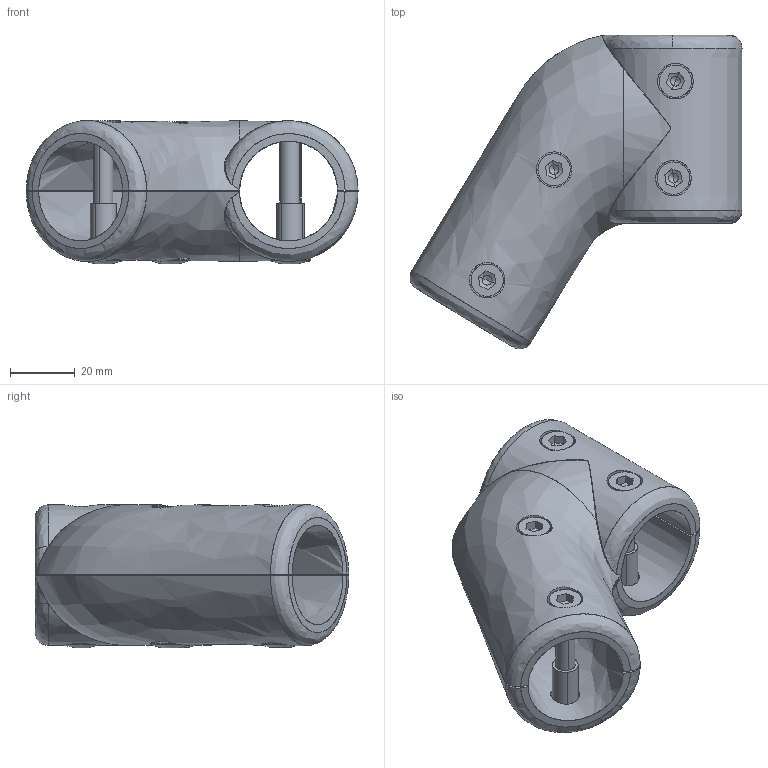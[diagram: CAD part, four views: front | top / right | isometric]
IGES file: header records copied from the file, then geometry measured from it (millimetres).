
Start section: SolidWorks IGES file using analytic representation for surfaces
Global section: file name: C:\Users\Gerard\OneDrive - Tecnodin, S.L\Escritorio\30 mm Verbinder im step. Format\31000410010.IGS; native system: SolidWorks 2016; preprocessor: SolidWorks 2016; author: Gerard; date: 240902.114429; units: millimetre
Bounding box: 102.74 x 97.03 x 44.42 mm (x, y, z)
Surface area: 41833.3 mm2 (no closed solid volume)
Topology: 0 solids, 0 shells, 238 faces, 4308 edges, 4288 vertices
Faces by surface type: revolution 124, bspline 114
